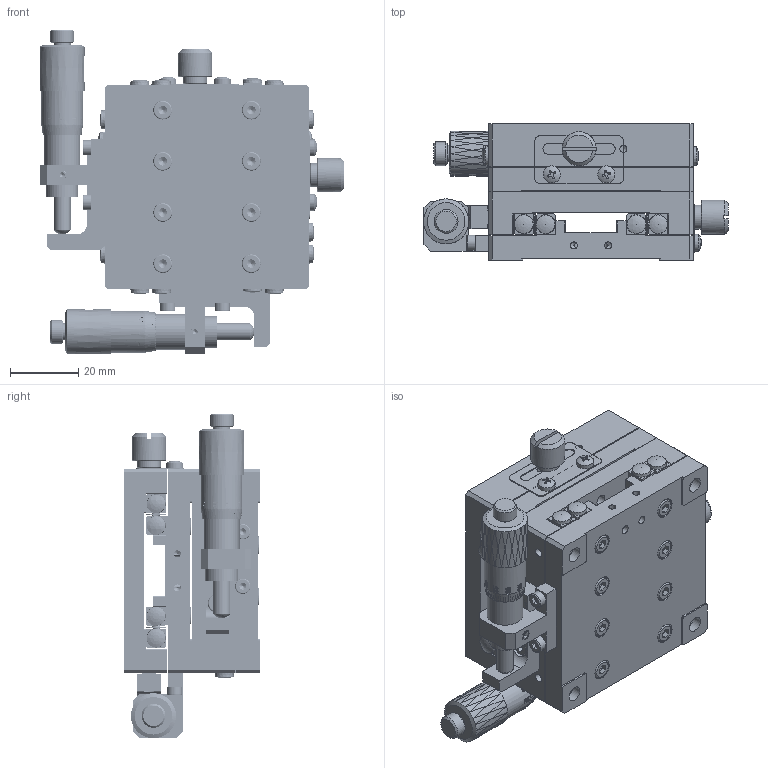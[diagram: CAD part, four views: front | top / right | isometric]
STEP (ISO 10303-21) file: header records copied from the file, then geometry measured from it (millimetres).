
FILE_DESCRIPTION (( 'STEP AP203' ), '1' );
FILE_NAME ('BPEB60.STEP', '2024-07-27T00:36:00', ( 'Windows User' ), ( 'P R C' ), 'SwSTEP 2.0', 'SolidWorks 2024', '' );
FILE_SCHEMA (( 'CONFIG_CONTROL_DESIGN' ));
Products named in the file (1): BPEB60
Bounding box: 89.4 x 40 x 95.2 mm (x, y, z)
Volume: 133666.4 mm3; surface area: 86504.3 mm2
Topology: 74 solids, 74 shells, 3740 faces, 9286 edges, 5960 vertices
Faces by surface type: plane 1718, bspline 806, cylinder 678, cone 492, torus 40, sphere 6
Full cylindrical faces by diameter (mm): 2 x44, 2.05 x24, 2.5 x38, 2.55 x32, 2.95 x18, 3 x42, 3.1 x4, 3.2 x4, 3.3 x18, 3.4 x32, 4.4 x32, 4.5 x12, 5 x10, 5.5 x36, 5.8 x4, 6 x32, 7 x4, 8 x8, 8.5 x2, 9.5 x4, 10 x2, 10.5 x2, 12.2 x2
Entity records: 169045 total; most frequent: CARTESIAN_POINT 91895, ORIENTED_EDGE 16536, DIRECTION 12716, EDGE_CURVE 8268, VERTEX_POINT 5710, EDGE_LOOP 5182, AXIS2_PLACEMENT_3D 4683, FACE_OUTER_BOUND 4156
